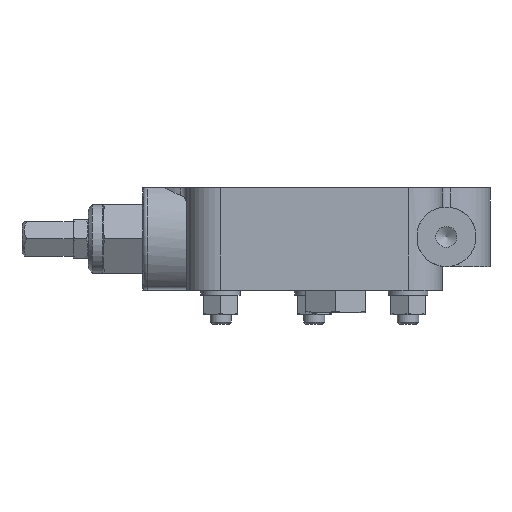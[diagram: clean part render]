
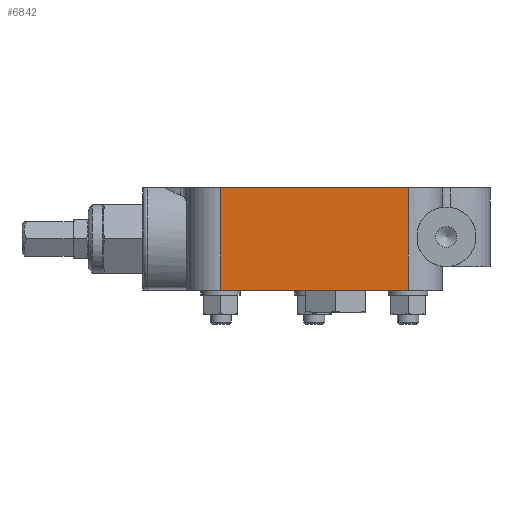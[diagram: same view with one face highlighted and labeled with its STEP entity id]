
A CAD part, front view. The second image highlights one B-rep face of the part: STEP entity #6842.
In plain terms, the highlighted planar face has unit normal (0, -1, 0).
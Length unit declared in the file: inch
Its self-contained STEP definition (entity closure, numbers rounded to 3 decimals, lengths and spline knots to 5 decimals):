
#1110=CARTESIAN_POINT('',(1.375,-2.593,-1.594));
#1111=VERTEX_POINT('',#1110);
#1119=CARTESIAN_POINT('',(-1.375,-2.593,-1.594));
#1120=VERTEX_POINT('',#1119);
#1121=CARTESIAN_POINT('',(-1.375,-2.593,-1.594));
#1122=DIRECTION('',(1.0,0.0,0.0));
#1123=VECTOR('',#1122,2.75);
#1124=LINE('',#1121,#1123);
#1125=EDGE_CURVE('',#1120,#1111,#1124,.T.);
#6800=CARTESIAN_POINT('',(-1.375,-2.593,-0.094));
#6801=VERTEX_POINT('',#6800);
#6802=CARTESIAN_POINT('',(-1.375,-2.593,-0.094));
#6803=DIRECTION('',(0.0,0.0,-1.0));
#6804=VECTOR('',#6803,1.5);
#6805=LINE('',#6802,#6804);
#6806=EDGE_CURVE('',#6801,#1120,#6805,.T.);
#6819=CARTESIAN_POINT('',(-1.375,-2.593,0.0));
#6820=DIRECTION('',(0.0,-1.0,0.0));
#6821=DIRECTION('',(0.0,0.0,-1.0));
#6822=AXIS2_PLACEMENT_3D('',#6819,#6820,#6821);
#6823=PLANE('',#6822);
#6824=ORIENTED_EDGE('',*,*,#1125,.T.);
#6825=CARTESIAN_POINT('',(1.375,-2.593,-0.094));
#6826=VERTEX_POINT('',#6825);
#6827=CARTESIAN_POINT('',(1.375,-2.593,-0.094));
#6828=DIRECTION('',(0.0,0.0,-1.0));
#6829=VECTOR('',#6828,1.5);
#6830=LINE('',#6827,#6829);
#6831=EDGE_CURVE('',#6826,#1111,#6830,.T.);
#6832=ORIENTED_EDGE('',*,*,#6831,.F.);
#6833=CARTESIAN_POINT('',(1.375,-2.593,-0.094));
#6834=DIRECTION('',(-1.0,0.0,0.0));
#6835=VECTOR('',#6834,2.75);
#6836=LINE('',#6833,#6835);
#6837=EDGE_CURVE('',#6826,#6801,#6836,.T.);
#6838=ORIENTED_EDGE('',*,*,#6837,.T.);
#6839=ORIENTED_EDGE('',*,*,#6806,.T.);
#6840=EDGE_LOOP('',(#6824,#6832,#6838,#6839));
#6841=FACE_OUTER_BOUND('',#6840,.T.);
#6842=ADVANCED_FACE('',(#6841),#6823,.T.);
